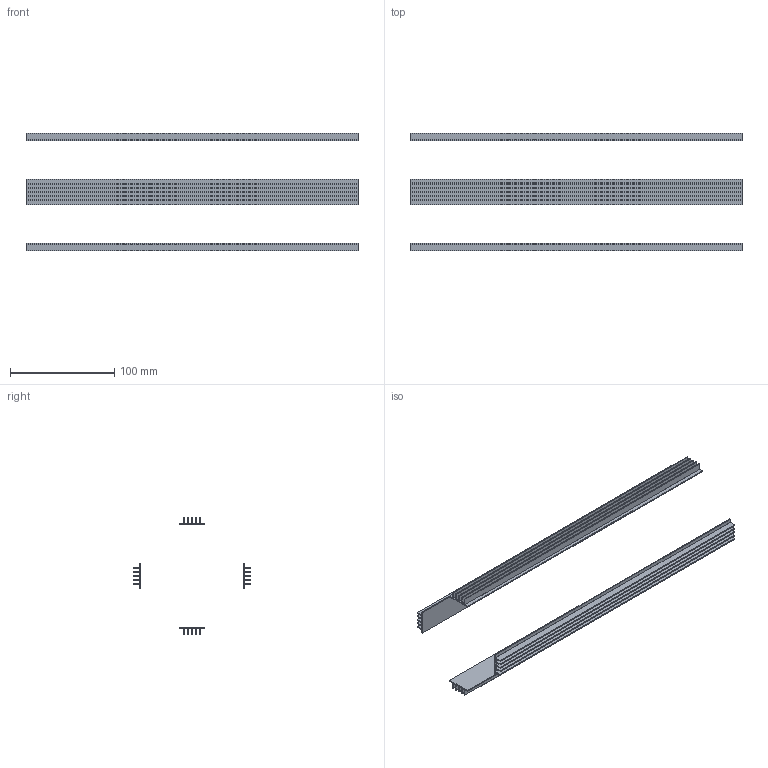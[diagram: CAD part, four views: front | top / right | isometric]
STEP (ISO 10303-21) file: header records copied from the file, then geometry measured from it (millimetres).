
FILE_DESCRIPTION(('Open CASCADE Model'),'2;1');
FILE_NAME('Open CASCADE Shape Model','2026-08-14T13:04:20',('Author'),( 'Open CASCADE'),'Open CASCADE STEP processor 7.7','Open CASCADE 7.7' ,'Unknown');
FILE_SCHEMA(('AUTOMOTIVE_DESIGN { 1 0 10303 214 1 1 1 1 }'));
Length unit declared in the file: millimetre
Products named in the file (85): Open CASCADE STEP translator 7.7 1; Open CASCADE STEP translator 7.7 1.1; Open CASCADE STEP translator 7.7 1.2; Open CASCADE STEP translator 7.7 1.3; Open CASCADE STEP translator 7.7 1.4; Open CASCADE STEP translator 7.7 1.5; Open CASCADE STEP translator 7.7 1.6; Open CASCADE STEP translator 7.7 1.7; Open CASCADE STEP translator 7.7 1.8; Open CASCADE STEP translator 7.7 1.9; Open CASCADE STEP translator 7.7 1.10; Open CASCADE STEP translator 7.7 1.11; Open CASCADE STEP translator 7.7 1.12; Open CASCADE STEP translator 7.7 1.13; Open CASCADE STEP translator 7.7 1.14; Open CASCADE STEP translator 7.7 1.15; Open CASCADE STEP translator 7.7 1.16; Open CASCADE STEP translator 7.7 1.17; Open CASCADE STEP translator 7.7 1.18; Open CASCADE STEP translator 7.7 1.19; Open CASCADE STEP translator 7.7 1.20; Open CASCADE STEP translator 7.7 1.21; Open CASCADE STEP translator 7.7 1.22; Open CASCADE STEP translator 7.7 1.23; Open CASCADE STEP translator 7.7 1.24; Open CASCADE STEP translator 7.7 1.25; Open CASCADE STEP translator 7.7 1.26; Open CASCADE STEP translator 7.7 1.27; Open CASCADE STEP translator 7.7 1.28; Open CASCADE STEP translator 7.7 1.29; Open CASCADE STEP translator 7.7 1.30; Open CASCADE STEP translator 7.7 1.31; Open CASCADE STEP translator 7.7 1.32; Open CASCADE STEP translator 7.7 1.33; Open CASCADE STEP translator 7.7 1.34; Open CASCADE STEP translator 7.7 1.35; Open CASCADE STEP translator 7.7 1.36; Open CASCADE STEP translator 7.7 1.37; Open CASCADE STEP translator 7.7 1.38; Open CASCADE STEP translator 7.7 1.39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
Assembly tree (84 placements, depth 2):
  Open CASCADE STEP translator 7.7 1
    Open CASCADE STEP translator 7.7 1.1
    Open CASCADE STEP translator 7.7 1.2
    Open CASCADE STEP translator 7.7 1.3
    Open CASCADE STEP translator 7.7 1.4
    Open CASCADE STEP translator 7.7 1.5
    Open CASCADE STEP translator 7.7 1.6
    Open CASCADE STEP translator 7.7 1.7
    Open CASCADE STEP translator 7.7 1.8
    Open CASCADE STEP translator 7.7 1.9
    Open CASCADE STEP translator 7.7 1.10
    Open CASCADE STEP translator 7.7 1.11
    Open CASCADE STEP translator 7.7 1.12
    Open CASCADE STEP translator 7.7 1.13
    Open CASCADE STEP translator 7.7 1.14
    Open CASCADE STEP translator 7.7 1.15
    Open CASCADE STEP translator 7.7 1.16
    Open CASCADE STEP translator 7.7 1.17
    Open CASCADE STEP translator 7.7 1.18
    Open CASCADE STEP translator 7.7 1.19
    Open CASCADE STEP translator 7.7 1.20
    Open CASCADE STEP translator 7.7 1.21
    Open CASCADE STEP translator 7.7 1.22
    Open CASCADE STEP translator 7.7 1.23
    Open CASCADE STEP translator 7.7 1.24
    Open CASCADE STEP translator 7.7 1.25
    Open CASCADE STEP translator 7.7 1.26
    Open CASCADE STEP translator 7.7 1.27
    Open CASCADE STEP translator 7.7 1.28
    Open CASCADE STEP translator 7.7 1.29
    Open CASCADE STEP translator 7.7 1.30
    Open CASCADE STEP translator 7.7 1.31
    Open CASCADE STEP translator 7.7 1.32
    Open CASCADE STEP translator 7.7 1.33
    Open CASCADE STEP translator 7.7 1.34
    Open CASCADE STEP translator 7.7 1.35
    Open CASCADE STEP translator 7.7 1.36
    Open CASCADE STEP translator 7.7 1.37
    Open CASCADE STEP translator 7.7 1.38
    Open CASCADE STEP translator 7.7 1.39
    Open CASCADE STEP translator 7.7 1.40
    Open CASCADE STEP translator 7.7 1.41
    Open CASCADE STEP translator 7.7 1.42
    Open CASCADE STEP translator 7.7 1.43
    Open CASCADE STEP translator 7.7 1.44
    Open CASCADE STEP translator 7.7 1.45
    Open CASCADE STEP translator 7.7 1.46
    Open CASCADE STEP translator 7.7 1.47
    Open CASCADE STEP translator 7.7 1.48
    Open CASCADE STEP translator 7.7 1.49
    Open CASCADE STEP translator 7.7 1.50
    Open CASCADE STEP translator 7.7 1.51
    Open CASCADE STEP translator 7.7 1.52
    Open CASCADE STEP translator 7.7 1.53
    Open CASCADE STEP translator 7.7 1.54
    Open CASCADE STEP translator 7.7 1.55
    Open CASCADE STEP translator 7.7 1.56
    Open CASCADE STEP translator 7.7 1.57
    Open CASCADE STEP translator 7.7 1.58
    Open CASCADE STEP translator 7.7 1.59
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Bounding box: 318.6 x 112.5 x 112.5 mm (x, y, z)
Volume: 77579.1 mm3; surface area: 397844.9 mm2
Topology: 84 solids, 84 shells, 504 faces, 1008 edges, 672 vertices
Faces by surface type: plane 504
Entity records: 27232 total; most frequent: CARTESIAN_POINT 4285, DIRECTION 4202, LINE 3024, VECTOR 3024, ORIENTED_EDGE 2016, PCURVE 2016, DEFINITIONAL_REPRESENTATION 2016, EDGE_CURVE 1008
